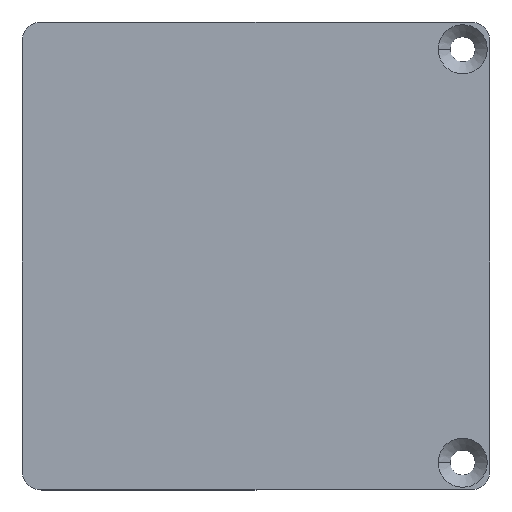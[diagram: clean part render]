
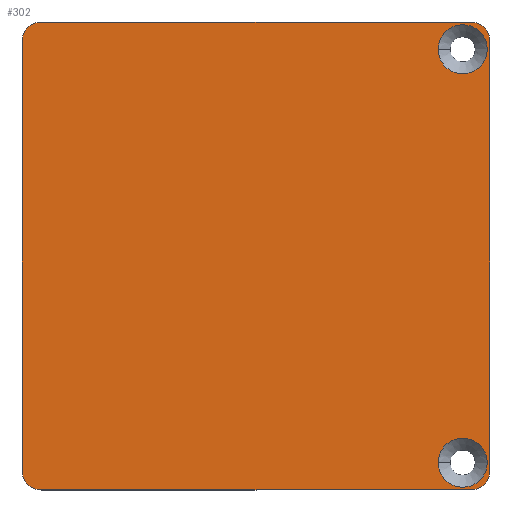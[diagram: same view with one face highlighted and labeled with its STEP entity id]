
A CAD part, top view. The second image highlights one B-rep face of the part: STEP entity #302.
In plain terms, the highlighted planar face has unit normal (0, 0, 1).
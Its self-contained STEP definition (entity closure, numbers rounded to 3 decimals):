
#5 = CIRCLE ( 'NONE', #585, 2.5 ) ;
#8 = AXIS2_PLACEMENT_3D ( 'NONE', #209, #305, #115 ) ;
#11 = ORIENTED_EDGE ( 'NONE', *, *, #56, .T. ) ;
#14 = VERTEX_POINT ( 'NONE', #222 ) ;
#15 = VERTEX_POINT ( 'NONE', #276 ) ;
#20 = DIRECTION ( 'NONE',  ( 0., 0., 1. ) ) ;
#32 = CARTESIAN_POINT ( 'NONE',  ( -30., 30., 2. ) ) ;
#49 = AXIS2_PLACEMENT_3D ( 'NONE', #147, #20, #471 ) ;
#50 = CARTESIAN_POINT ( 'NONE',  ( -27.5, 27.5, 2. ) ) ;
#55 = CARTESIAN_POINT ( 'NONE',  ( 27.5, -30., 2. ) ) ;
#56 = EDGE_CURVE ( 'NONE', #256, #156, #419, .T. ) ;
#57 = DIRECTION ( 'NONE',  ( 1., 0., 0. ) ) ;
#59 = EDGE_LOOP ( 'NONE', ( #199, #278 ) ) ;
#65 = VECTOR ( 'NONE', #191, 1000. ) ;
#67 = EDGE_CURVE ( 'NONE', #195, #90, #163, .T. ) ;
#81 = EDGE_CURVE ( 'NONE', #512, #501, #144, .T. ) ;
#83 = CARTESIAN_POINT ( 'NONE',  ( 30., -30., 2. ) ) ;
#85 = DIRECTION ( 'NONE',  ( 1., 0., 0. ) ) ;
#90 = VERTEX_POINT ( 'NONE', #249 ) ;
#91 = EDGE_CURVE ( 'NONE', #501, #512, #445, .T. ) ;
#98 = VERTEX_POINT ( 'NONE', #55 ) ;
#101 = AXIS2_PLACEMENT_3D ( 'NONE', #340, #201, #513 ) ;
#102 = DIRECTION ( 'NONE',  ( 1., 0., 0. ) ) ;
#109 = ORIENTED_EDGE ( 'NONE', *, *, #443, .T. ) ;
#115 = DIRECTION ( 'NONE',  ( 1., 0., 0. ) ) ;
#123 = ORIENTED_EDGE ( 'NONE', *, *, #537, .T. ) ;
#130 = CIRCLE ( 'NONE', #8, 3.15 ) ;
#133 = CARTESIAN_POINT ( 'NONE',  ( -30., -30., 2. ) ) ;
#137 = VECTOR ( 'NONE', #368, 1000. ) ;
#138 = AXIS2_PLACEMENT_3D ( 'NONE', #564, #383, #102 ) ;
#144 = CIRCLE ( 'NONE', #101, 3.15 ) ;
#147 = CARTESIAN_POINT ( 'NONE',  ( -27.5, -27.5, 2. ) ) ;
#149 = EDGE_LOOP ( 'NONE', ( #217, #349 ) ) ;
#150 = AXIS2_PLACEMENT_3D ( 'NONE', #538, #582, #317 ) ;
#156 = VERTEX_POINT ( 'NONE', #263 ) ;
#163 = CIRCLE ( 'NONE', #49, 2.5 ) ;
#166 = EDGE_CURVE ( 'NONE', #375, #15, #130, .T. ) ;
#169 = AXIS2_PLACEMENT_3D ( 'NONE', #421, #283, #510 ) ;
#177 = CARTESIAN_POINT ( 'NONE',  ( 27.5, 30., 2. ) ) ;
#180 = DIRECTION ( 'NONE',  ( 1., 0., 0. ) ) ;
#186 = VECTOR ( 'NONE', #425, 1000. ) ;
#191 = DIRECTION ( 'NONE',  ( 1., 0., 0. ) ) ;
#195 = VERTEX_POINT ( 'NONE', #528 ) ;
#199 = ORIENTED_EDGE ( 'NONE', *, *, #81, .F. ) ;
#201 = DIRECTION ( 'NONE',  ( 0., 0., 1. ) ) ;
#209 = CARTESIAN_POINT ( 'NONE',  ( 26.5, -26.5, 2. ) ) ;
#214 = VERTEX_POINT ( 'NONE', #310 ) ;
#217 = ORIENTED_EDGE ( 'NONE', *, *, #166, .F. ) ;
#222 = CARTESIAN_POINT ( 'NONE',  ( 30., 27.5, 2. ) ) ;
#223 = PLANE ( 'NONE',  #338 ) ;
#233 = CARTESIAN_POINT ( 'NONE',  ( 29.65, -26.5, 2. ) ) ;
#242 = CARTESIAN_POINT ( 'NONE',  ( 30., -30., 2. ) ) ;
#249 = CARTESIAN_POINT ( 'NONE',  ( -27.5, -30., 2. ) ) ;
#256 = VERTEX_POINT ( 'NONE', #177 ) ;
#263 = CARTESIAN_POINT ( 'NONE',  ( -27.5, 30., 2. ) ) ;
#274 = CIRCLE ( 'NONE', #150, 2.5 ) ;
#276 = CARTESIAN_POINT ( 'NONE',  ( 23.35, -26.5, 2. ) ) ;
#278 = ORIENTED_EDGE ( 'NONE', *, *, #91, .F. ) ;
#282 = EDGE_CURVE ( 'NONE', #14, #256, #274, .T. ) ;
#283 = DIRECTION ( 'NONE',  ( 0., 0., 1. ) ) ;
#287 = DIRECTION ( 'NONE',  ( 0., 1., 0. ) ) ;
#290 = CARTESIAN_POINT ( 'NONE',  ( 23.35, 26.5, 2. ) ) ;
#302 = ADVANCED_FACE ( 'NONE', ( #495, #373, #395 ), #223, .T. ) ;
#305 = DIRECTION ( 'NONE',  ( 0., 0., 1. ) ) ;
#310 = CARTESIAN_POINT ( 'NONE',  ( -30., 27.5, 2. ) ) ;
#317 = DIRECTION ( 'NONE',  ( 1., 0., 0. ) ) ;
#335 = LINE ( 'NONE', #242, #514 ) ;
#338 = AXIS2_PLACEMENT_3D ( 'NONE', #32, #536, #180 ) ;
#340 = CARTESIAN_POINT ( 'NONE',  ( 26.5, 26.5, 2. ) ) ;
#342 = LINE ( 'NONE', #83, #65 ) ;
#349 = ORIENTED_EDGE ( 'NONE', *, *, #473, .F. ) ;
#359 = ORIENTED_EDGE ( 'NONE', *, *, #577, .T. ) ;
#360 = AXIS2_PLACEMENT_3D ( 'NONE', #416, #457, #57 ) ;
#364 = DIRECTION ( 'NONE',  ( 0., 0., 1. ) ) ;
#367 = EDGE_CURVE ( 'NONE', #214, #195, #381, .T. ) ;
#368 = DIRECTION ( 'NONE',  ( 0., -1., 0. ) ) ;
#373 = FACE_BOUND ( 'NONE', #59, .T. ) ;
#375 = VERTEX_POINT ( 'NONE', #233 ) ;
#380 = CARTESIAN_POINT ( 'NONE',  ( 30., 30., 2. ) ) ;
#381 = LINE ( 'NONE', #133, #137 ) ;
#383 = DIRECTION ( 'NONE',  ( 0., 0., 1. ) ) ;
#395 = FACE_OUTER_BOUND ( 'NONE', #543, .T. ) ;
#396 = ORIENTED_EDGE ( 'NONE', *, *, #367, .T. ) ;
#401 = CIRCLE ( 'NONE', #169, 3.15 ) ;
#404 = ORIENTED_EDGE ( 'NONE', *, *, #282, .T. ) ;
#414 = VERTEX_POINT ( 'NONE', #453 ) ;
#416 = CARTESIAN_POINT ( 'NONE',  ( 27.5, -27.5, 2. ) ) ;
#419 = LINE ( 'NONE', #380, #186 ) ;
#421 = CARTESIAN_POINT ( 'NONE',  ( 26.5, -26.5, 2. ) ) ;
#425 = DIRECTION ( 'NONE',  ( -1., 0., 0. ) ) ;
#443 = EDGE_CURVE ( 'NONE', #90, #98, #342, .T. ) ;
#445 = CIRCLE ( 'NONE', #138, 3.15 ) ;
#450 = EDGE_CURVE ( 'NONE', #156, #214, #5, .T. ) ;
#453 = CARTESIAN_POINT ( 'NONE',  ( 30., -27.5, 2. ) ) ;
#457 = DIRECTION ( 'NONE',  ( 0., 0., 1. ) ) ;
#463 = CARTESIAN_POINT ( 'NONE',  ( 29.65, 26.5, 2. ) ) ;
#471 = DIRECTION ( 'NONE',  ( 1., 0., 0. ) ) ;
#473 = EDGE_CURVE ( 'NONE', #15, #375, #401, .T. ) ;
#485 = ORIENTED_EDGE ( 'NONE', *, *, #67, .T. ) ;
#495 = FACE_BOUND ( 'NONE', #149, .T. ) ;
#497 = ORIENTED_EDGE ( 'NONE', *, *, #450, .T. ) ;
#501 = VERTEX_POINT ( 'NONE', #290 ) ;
#510 = DIRECTION ( 'NONE',  ( 1., 0., 0. ) ) ;
#512 = VERTEX_POINT ( 'NONE', #463 ) ;
#513 = DIRECTION ( 'NONE',  ( 1., 0., 0. ) ) ;
#514 = VECTOR ( 'NONE', #287, 1000. ) ;
#528 = CARTESIAN_POINT ( 'NONE',  ( -30., -27.5, 2. ) ) ;
#536 = DIRECTION ( 'NONE',  ( 0., 0., 1. ) ) ;
#537 = EDGE_CURVE ( 'NONE', #98, #414, #567, .T. ) ;
#538 = CARTESIAN_POINT ( 'NONE',  ( 27.5, 27.5, 2. ) ) ;
#543 = EDGE_LOOP ( 'NONE', ( #109, #123, #359, #404, #11, #497, #396, #485 ) ) ;
#564 = CARTESIAN_POINT ( 'NONE',  ( 26.5, 26.5, 2. ) ) ;
#567 = CIRCLE ( 'NONE', #360, 2.5 ) ;
#577 = EDGE_CURVE ( 'NONE', #414, #14, #335, .T. ) ;
#582 = DIRECTION ( 'NONE',  ( 0., 0., 1. ) ) ;
#585 = AXIS2_PLACEMENT_3D ( 'NONE', #50, #364, #85 ) ;
